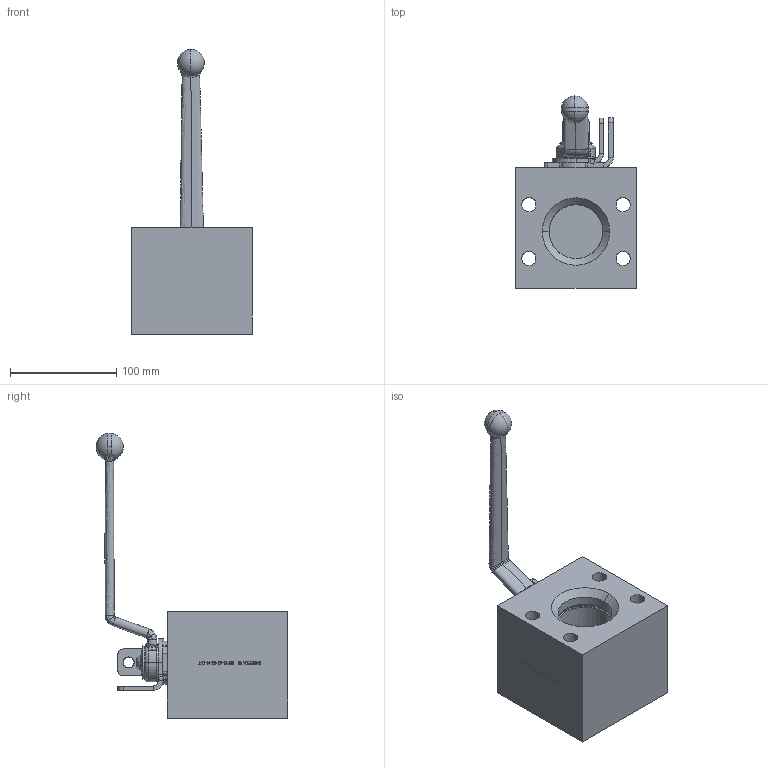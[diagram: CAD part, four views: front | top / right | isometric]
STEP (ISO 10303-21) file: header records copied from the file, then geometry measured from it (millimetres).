
FILE_DESCRIPTION (( 'STEP AP214' ), '1' );
FILE_NAME ('IBF-B-6140-N-D-T OPEN.STEP', '2026-01-28T16:54:50', ( '' ), ( '' ), 'SwSTEP 2.0', 'SolidWorks 2025', '' );
FILE_SCHEMA (( 'AUTOMOTIVE_DESIGN' ));
Length unit declared in the file: inch
Products named in the file (1): IBF-B-6140-N-D-T OPEN
Bounding box: 113.54 x 180.78 x 268.73 mm (x, y, z)
Volume: 1061863.1 mm3; surface area: 200706.3 mm2
Topology: 4 solids, 8 shells, 996 faces, 2774 edges, 1843 vertices
Faces by surface type: plane 515, bspline 205, cylinder 186, cone 51, torus 21, sphere 18
Entity records: 55465 total; most frequent: CARTESIAN_POINT 31903, ORIENTED_EDGE 5532, DIRECTION 3949, EDGE_CURVE 2766, VERTEX_POINT 1841, LINE 1325, VECTOR 1325, AXIS2_PLACEMENT_3D 1312
